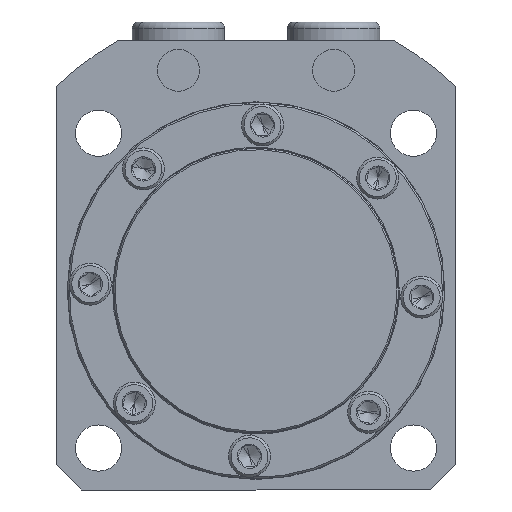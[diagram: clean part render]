
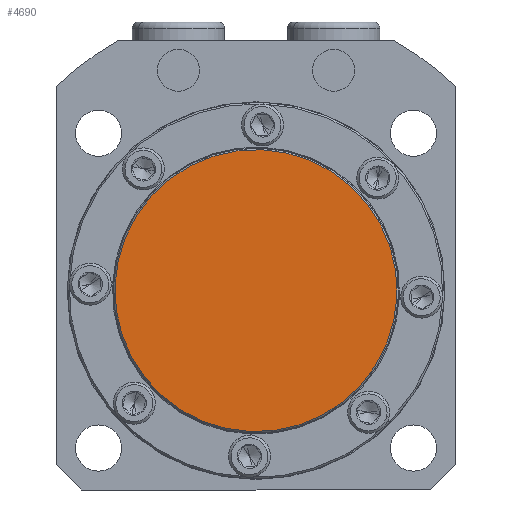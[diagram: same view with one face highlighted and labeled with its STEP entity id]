
A CAD part, front view. The second image highlights one B-rep face of the part: STEP entity #4690.
In plain terms, the highlighted planar face has unit normal (0, -1, 0).
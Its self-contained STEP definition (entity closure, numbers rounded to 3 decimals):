
#590 = CARTESIAN_POINT ( 'NONE',  ( 0., -13., 0. ) ) ;
#598 = FACE_OUTER_BOUND ( 'NONE', #2856, .T. ) ;
#599 = PLANE ( 'NONE',  #3420 ) ;
#602 = DIRECTION ( 'NONE',  ( 0., -1., 0. ) ) ;
#603 = DIRECTION ( 'NONE',  ( 0., 0., -1. ) ) ;
#2296 = CARTESIAN_POINT ( 'NONE',  ( 0., -13., 33.6 ) ) ;
#2299 = CARTESIAN_POINT ( 'NONE',  ( 0., -13., -33.6 ) ) ;
#2539 = CARTESIAN_POINT ( 'NONE',  ( 0., -13., 0. ) ) ;
#2540 = DIRECTION ( 'NONE',  ( 0., -1., 0. ) ) ;
#2541 = DIRECTION ( 'NONE',  ( 0., 0., -1. ) ) ;
#2856 = EDGE_LOOP ( 'NONE', ( #4429, #4430 ) ) ;
#3136 = CIRCLE ( 'NONE', #3141, 33.6 ) ;
#3141 = AXIS2_PLACEMENT_3D ( 'NONE', #5292, #5293, #5294 ) ;
#3299 = CIRCLE ( 'NONE', #3306, 33.6 ) ;
#3306 = AXIS2_PLACEMENT_3D ( 'NONE', #2539, #2540, #2541 ) ;
#3420 = AXIS2_PLACEMENT_3D ( 'NONE', #590, #602, #603 ) ;
#3717 = EDGE_CURVE ( 'NONE', #4014, #4017, #3136, .T. ) ;
#4014 = VERTEX_POINT ( 'NONE', #2296 ) ;
#4017 = VERTEX_POINT ( 'NONE', #2299 ) ;
#4429 = ORIENTED_EDGE ( 'NONE', *, *, #3717, .T. ) ;
#4430 = ORIENTED_EDGE ( 'NONE', *, *, #4607, .T. ) ;
#4607 = EDGE_CURVE ( 'NONE', #4017, #4014, #3299, .T. ) ;
#4690 = ADVANCED_FACE ( 'NONE', ( #598 ), #599, .T. ) ;
#5292 = CARTESIAN_POINT ( 'NONE',  ( 0., -13., 0. ) ) ;
#5293 = DIRECTION ( 'NONE',  ( 0., -1., 0. ) ) ;
#5294 = DIRECTION ( 'NONE',  ( 0., 0., -1. ) ) ;
